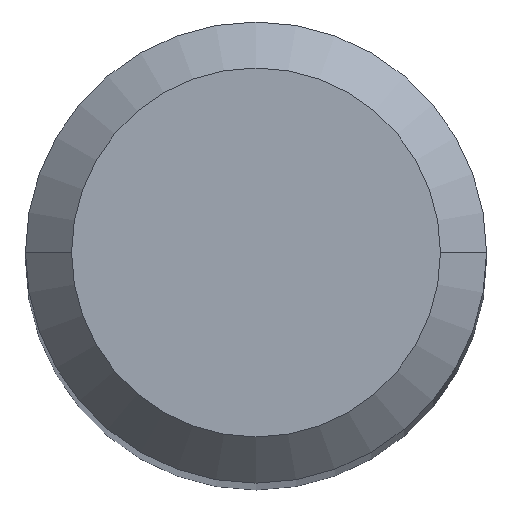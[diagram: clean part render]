
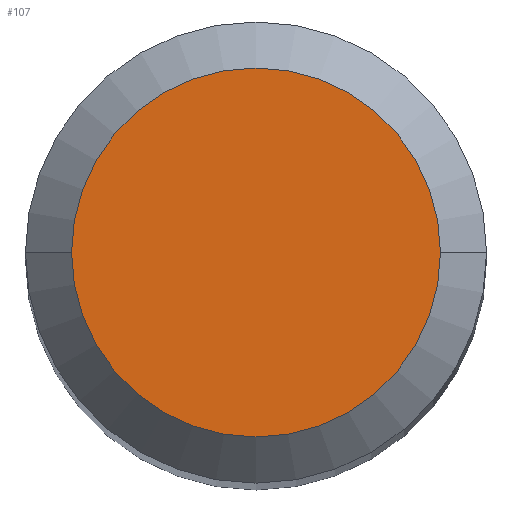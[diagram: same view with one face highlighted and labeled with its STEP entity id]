
A CAD part, top view. The second image highlights one B-rep face of the part: STEP entity #107.
In plain terms, the highlighted planar face has unit normal (0, 0, 1).
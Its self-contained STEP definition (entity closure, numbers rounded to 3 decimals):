
#74 = DIRECTION ( 'NONE',  ( -1., 0., 0. ) ) ;
#93 = EDGE_CURVE ( 'NONE', #268, #456, #265, .T. ) ;
#96 = AXIS2_PLACEMENT_3D ( 'NONE', #192, #242, #339 ) ;
#107 = ADVANCED_FACE ( 'NONE', ( #239 ), #437, .T. ) ;
#192 = CARTESIAN_POINT ( 'NONE',  ( 0., 0., 0. ) ) ;
#239 = FACE_OUTER_BOUND ( 'NONE', #562, .T. ) ;
#242 = DIRECTION ( 'NONE',  ( 0., 0., -1. ) ) ;
#247 = DIRECTION ( 'NONE',  ( 0., 0., 1. ) ) ;
#265 = CIRCLE ( 'NONE', #96, 2. ) ;
#268 = VERTEX_POINT ( 'NONE', #332 ) ;
#306 = DIRECTION ( 'NONE',  ( 0., 0., -1. ) ) ;
#332 = CARTESIAN_POINT ( 'NONE',  ( 2., 0., 0. ) ) ;
#339 = DIRECTION ( 'NONE',  ( -1., 0., 0. ) ) ;
#360 = CARTESIAN_POINT ( 'NONE',  ( 0., 0., 0. ) ) ;
#388 = AXIS2_PLACEMENT_3D ( 'NONE', #360, #306, #74 ) ;
#389 = DIRECTION ( 'NONE',  ( 1., 0., 0. ) ) ;
#397 = CARTESIAN_POINT ( 'NONE',  ( -2., 0., 0. ) ) ;
#437 = PLANE ( 'NONE',  #596 ) ;
#456 = VERTEX_POINT ( 'NONE', #397 ) ;
#470 = EDGE_CURVE ( 'NONE', #456, #268, #580, .T. ) ;
#495 = ORIENTED_EDGE ( 'NONE', *, *, #470, .F. ) ;
#528 = CARTESIAN_POINT ( 'NONE',  ( 0., 2., 0. ) ) ;
#562 = EDGE_LOOP ( 'NONE', ( #495, #592 ) ) ;
#580 = CIRCLE ( 'NONE', #388, 2. ) ;
#592 = ORIENTED_EDGE ( 'NONE', *, *, #93, .F. ) ;
#596 = AXIS2_PLACEMENT_3D ( 'NONE', #528, #247, #389 ) ;
